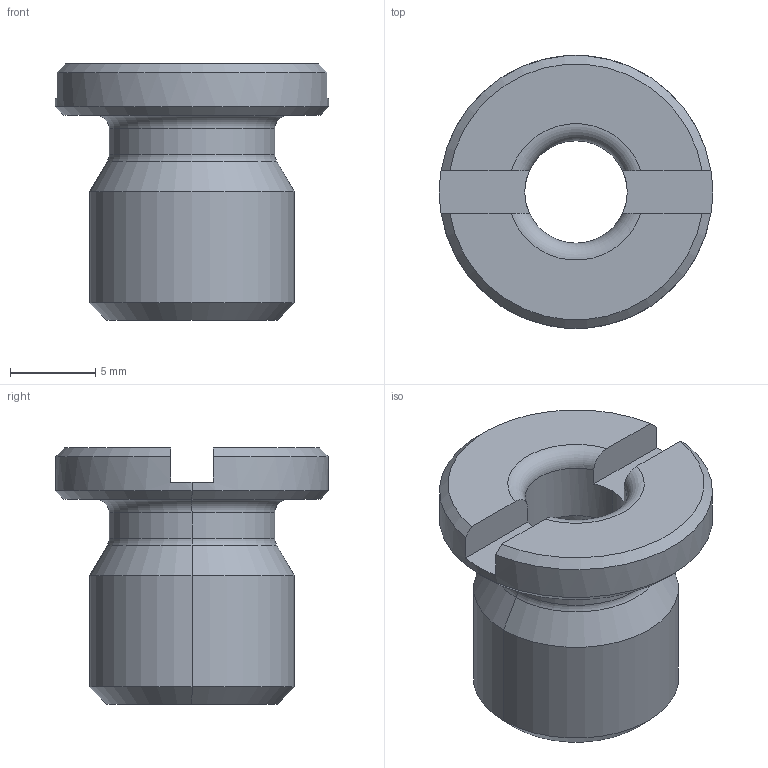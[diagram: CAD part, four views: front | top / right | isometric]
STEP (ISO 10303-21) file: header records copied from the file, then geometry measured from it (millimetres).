
FILE_DESCRIPTION (( 'STEP AP203' ), '1' );
FILE_NAME ('qcbu0608-m12sus.STEP', '2021-10-21T08:18:44', ( '' ), ( '' ), 'SwSTEP 2.0', 'SolidWorks 2020', '' );
FILE_SCHEMA (( 'CONFIG_CONTROL_DESIGN' ));
Length unit declared in the file: millimetre
Products named in the file (1): qcbu0608-m12sus
Bounding box: 16 x 16 x 15 mm (x, y, z)
Volume: 1105.8 mm3; surface area: 1252.7 mm2
Topology: 1 solids, 1 shells, 36 faces, 86 edges, 52 vertices
Faces by surface type: cone 10, cylinder 10, plane 10, torus 6
Entity records: 1159 total; most frequent: CARTESIAN_POINT 223, DIRECTION 196, ORIENTED_EDGE 172, EDGE_CURVE 86, AXIS2_PLACEMENT_3D 81, VERTEX_POINT 52, CIRCLE 44, EDGE_LOOP 38
